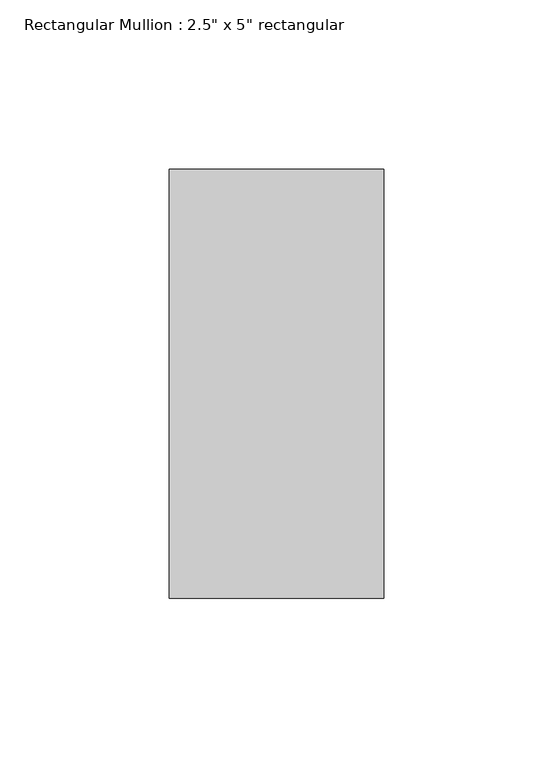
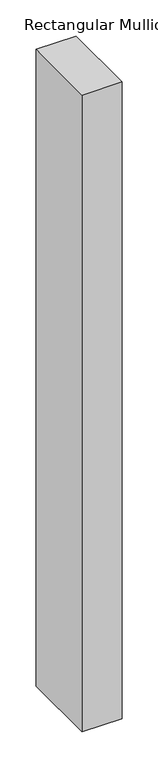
"""IFC4 building model written with IfcOpenShell, lengths in millimetres: member geometry."""

from ifc_helpers import new_model, si_unit, frame, origin, place, context, project, spatial, polyline, outline, extrude, source, transform, mapped, element, save


def member_88310184(model_context):
    return source(origin(), model_context, "Body", "SweptSolid", [
        extrude(outline(polyline([(0.0, 50.8), (0.0, -76.2), (-63.5, -76.2), (-63.5, 50.8), (0.0, 50.8)])), frame((0.0, 0.0, -1073.1798909), z_axis=(0.0, 0.0, 1.0), x_axis=(1.0, 0.0, 0.0)), (0.0, 0.0, 1.0), 1073.1798909),
    ])


if __name__ == "__main__":
    model = new_model("IFC4")
    model_context = context("Model", 3, world=origin())
    ifc_project = project(units=[si_unit("LENGTHUNIT", "METRE", prefix="MILLI")], contexts=[model_context])
    site = spatial("IfcSite", under=ifc_project)
    building = spatial("IfcBuilding", under=site)
    placement = place(None, origin())
    member_shape = member_88310184(model_context)
    element("IfcMember", 1, ObjectType="Rectangular Mullion : 2.5\" x 5\" rectangular", at=placement, inside=building, context=model_context, shape_type="MappedRepresentation", body=[
        mapped(member_shape, transform((0.0, 0.0, 0.0), x_axis=(1.0, 0.0, 0.0), y_axis=(0.0, 1.0, 0.0), z_axis=(0.0, 0.0, 1.0))),
    ])
    save(model, "model.ifc")
